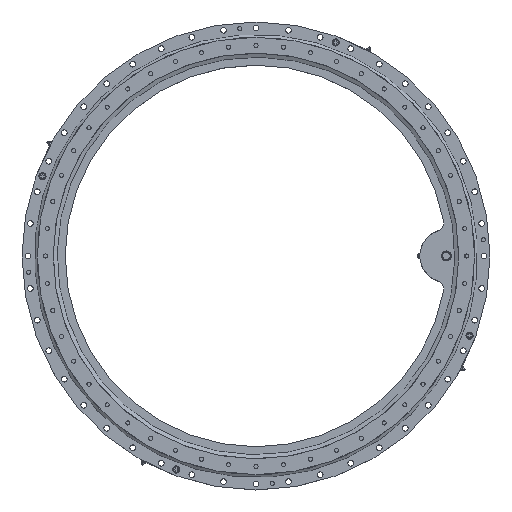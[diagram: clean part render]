
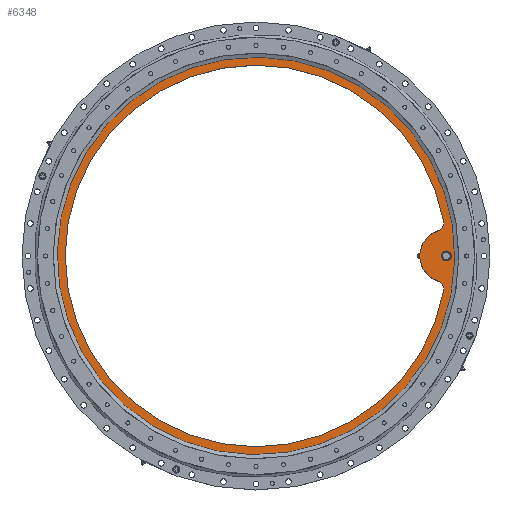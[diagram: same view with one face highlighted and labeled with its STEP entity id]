
A CAD part, top view. The second image highlights one B-rep face of the part: STEP entity #6348.
In plain terms, the highlighted planar face has unit normal (0, 0, 1).
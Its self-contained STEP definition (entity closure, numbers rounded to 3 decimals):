
#47=PLANE('',#6897);
#253=FACE_BOUND('',#953,.T.);
#254=FACE_BOUND('',#954,.T.);
#533=FACE_OUTER_BOUND('',#952,.T.);
#952=EDGE_LOOP('',(#4657));
#953=EDGE_LOOP('',(#4658));
#954=EDGE_LOOP('',(#4659,#4660,#4661,#4662));
#2225=CIRCLE('',#6709,66.);
#2227=CIRCLE('',#6712,475.);
#2351=CIRCLE('',#6895,20.);
#2353=CIRCLE('',#6898,497.);
#2354=CIRCLE('',#6899,10.5);
#2355=CIRCLE('',#6900,20.);
#2722=VERTEX_POINT('',#9521);
#2723=VERTEX_POINT('',#9523);
#2728=VERTEX_POINT('',#9718);
#2729=VERTEX_POINT('',#9719);
#2852=VERTEX_POINT('',#10085);
#2853=VERTEX_POINT('',#10087);
#3384=EDGE_CURVE('',#2722,#2723,#2225,.T.);
#3390=EDGE_CURVE('',#2728,#2729,#2227,.T.);
#3571=EDGE_CURVE('',#2722,#2729,#2351,.T.);
#3573=EDGE_CURVE('',#2852,#2852,#2353,.T.);
#3574=EDGE_CURVE('',#2853,#2853,#2354,.T.);
#3575=EDGE_CURVE('',#2728,#2723,#2355,.T.);
#4657=ORIENTED_EDGE('',*,*,#3573,.T.);
#4658=ORIENTED_EDGE('',*,*,#3574,.T.);
#4659=ORIENTED_EDGE('',*,*,#3390,.F.);
#4660=ORIENTED_EDGE('',*,*,#3575,.T.);
#4661=ORIENTED_EDGE('',*,*,#3384,.F.);
#4662=ORIENTED_EDGE('',*,*,#3571,.T.);
#6348=ADVANCED_FACE('',(#533,#253,#254),#47,.T.);
#6709=AXIS2_PLACEMENT_3D('',#9524,#7514,#7515);
#6712=AXIS2_PLACEMENT_3D('',#9720,#7522,#7523);
#6895=AXIS2_PLACEMENT_3D('',#10082,#7945,#7946);
#6897=AXIS2_PLACEMENT_3D('',#10084,#7949,#7950);
#6898=AXIS2_PLACEMENT_3D('',#10086,#7951,#7952);
#6899=AXIS2_PLACEMENT_3D('',#10088,#7953,#7954);
#6900=AXIS2_PLACEMENT_3D('',#10089,#7955,#7956);
#7514=DIRECTION('center_axis',(0.,0.,-1.));
#7515=DIRECTION('ref_axis',(1.,0.,0.));
#7522=DIRECTION('center_axis',(0.,0.,1.));
#7523=DIRECTION('ref_axis',(1.,0.,0.));
#7945=DIRECTION('center_axis',(0.,0.,-1.));
#7946=DIRECTION('ref_axis',(1.,0.,0.));
#7949=DIRECTION('center_axis',(0.,0.,1.));
#7950=DIRECTION('ref_axis',(1.,0.,0.));
#7951=DIRECTION('center_axis',(0.,0.,1.));
#7952=DIRECTION('ref_axis',(1.,0.,0.));
#7953=DIRECTION('center_axis',(0.,0.,-1.));
#7954=DIRECTION('ref_axis',(-1.,0.,0.));
#7955=DIRECTION('center_axis',(0.,0.,-1.));
#7956=DIRECTION('ref_axis',(1.,0.,0.));
#9521=CARTESIAN_POINT('',(479.156,-61.131,457.578));
#9523=CARTESIAN_POINT('',(479.156,64.485,457.578));
#9524=CARTESIAN_POINT('Origin',(499.433,1.677,457.578));
#9718=CARTESIAN_POINT('',(492.686,87.115,457.578));
#9719=CARTESIAN_POINT('',(492.686,-83.761,457.578));
#9720=CARTESIAN_POINT('Origin',(25.433,1.677,457.578));
#10082=CARTESIAN_POINT('Origin',(473.012,-80.164,457.578));
#10084=CARTESIAN_POINT('Origin',(25.433,1.677,457.578));
#10085=CARTESIAN_POINT('',(-471.567,1.677,457.578));
#10086=CARTESIAN_POINT('Origin',(25.433,1.677,457.578));
#10087=CARTESIAN_POINT('',(509.933,1.677,457.578));
#10088=CARTESIAN_POINT('Origin',(499.433,1.677,457.578));
#10089=CARTESIAN_POINT('Origin',(473.012,83.518,457.578));
